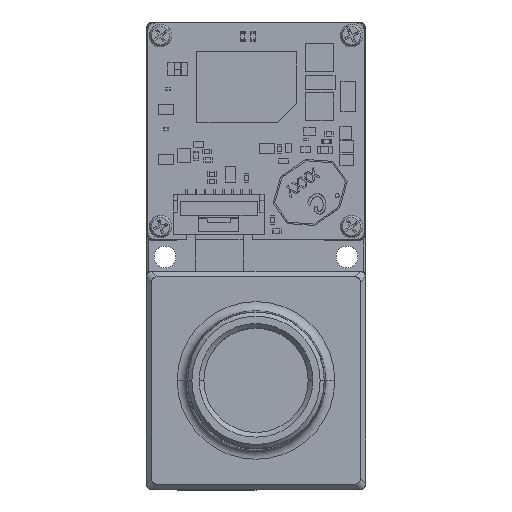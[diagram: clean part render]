
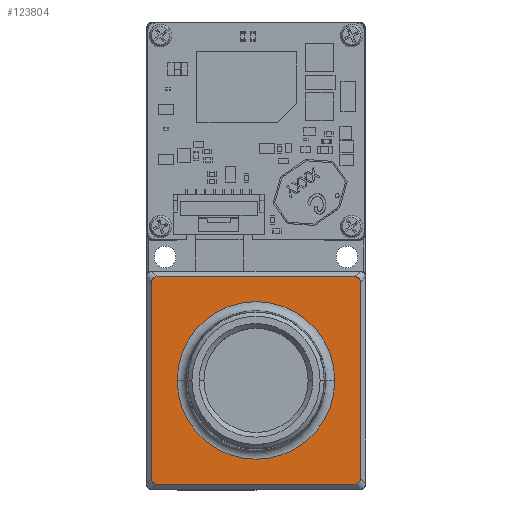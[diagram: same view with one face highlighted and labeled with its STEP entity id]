
A CAD part, top view. The second image highlights one B-rep face of the part: STEP entity #123804.
In plain terms, the highlighted planar face has unit normal (0, 0, 1).
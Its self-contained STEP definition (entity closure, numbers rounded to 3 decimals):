
#236 = CARTESIAN_POINT ( 'NONE',  ( -10.874, 11.4, 8. ) ) ;
#1142 = VERTEX_POINT ( 'NONE', #147869 ) ;
#1394 = CARTESIAN_POINT ( 'NONE',  ( 10.874, -11.4, 8. ) ) ;
#8650 = AXIS2_PLACEMENT_3D ( 'NONE', #35487, #95917, #83333 ) ;
#9811 = EDGE_CURVE ( 'NONE', #67257, #20929, #61658, .T. ) ;
#11931 = VERTEX_POINT ( 'NONE', #131696 ) ;
#13210 = CARTESIAN_POINT ( 'NONE',  ( 11.475, -11.178, 8. ) ) ;
#15712 =( BOUNDED_CURVE ( )  B_SPLINE_CURVE ( 3, ( #89204, #147423, #80323, #56041 ),
 .UNSPECIFIED., .F., .F. ) 
 B_SPLINE_CURVE_WITH_KNOTS ( ( 4, 4 ),
 ( 2.623, 3.675 ),
 .UNSPECIFIED. ) 
 CURVE ( )  GEOMETRIC_REPRESENTATION_ITEM ( )  RATIONAL_B_SPLINE_CURVE ( ( 1., 0.91, 0.91, 1. ) ) 
 REPRESENTATION_ITEM ( '' )  );
#16257 = CARTESIAN_POINT ( 'NONE',  ( 11.475, 10.794, 8. ) ) ;
#18449 = CARTESIAN_POINT ( 'NONE',  ( -11.475, -11.178, 8. ) ) ;
#19149 = DIRECTION ( 'NONE',  ( 0., 1., 0. ) ) ;
#20929 = VERTEX_POINT ( 'NONE', #69067 ) ;
#24364 = CIRCLE ( 'NONE', #117205, 8.666 ) ;
#29000 = ORIENTED_EDGE ( 'NONE', *, *, #79288, .T. ) ;
#30996 = CARTESIAN_POINT ( 'NONE',  ( -10.874, -11.4, 8. ) ) ;
#32399 = EDGE_CURVE ( 'NONE', #11931, #99386, #24364, .T. ) ;
#35487 = CARTESIAN_POINT ( 'NONE',  ( 0., 0., 8. ) ) ;
#38327 = ORIENTED_EDGE ( 'NONE', *, *, #9811, .T. ) ;
#39099 = CARTESIAN_POINT ( 'NONE',  ( 11.475, -10.794, 8. ) ) ;
#40115 = CARTESIAN_POINT ( 'NONE',  ( 0., 0., 8. ) ) ;
#42953 = ORIENTED_EDGE ( 'NONE', *, *, #74136, .T. ) ;
#45287 = EDGE_CURVE ( 'NONE', #89670, #93672, #70658, .T. ) ;
#49892 = CARTESIAN_POINT ( 'NONE',  ( 0., -11.4, 8. ) ) ;
#56041 = CARTESIAN_POINT ( 'NONE',  ( -11.475, 10.794, 8. ) ) ;
#56767 = DIRECTION ( 'NONE',  ( 0., -1., 0. ) ) ;
#57101 = AXIS2_PLACEMENT_3D ( 'NONE', #120223, #59741, #96632 ) ;
#57505 = CARTESIAN_POINT ( 'NONE',  ( 8.666, 0., 8. ) ) ;
#57536 = LINE ( 'NONE', #67775, #132528 ) ;
#58963 = CARTESIAN_POINT ( 'NONE',  ( 10.874, 11.4, 8. ) ) ;
#59741 = DIRECTION ( 'NONE',  ( 0., 0., -1. ) ) ;
#61658 = LINE ( 'NONE', #49892, #94899 ) ;
#62422 = ORIENTED_EDGE ( 'NONE', *, *, #32399, .T. ) ;
#64306 =( BOUNDED_CURVE ( )  B_SPLINE_CURVE ( 3, ( #130446, #108449, #83275, #58963 ),
 .UNSPECIFIED., .F., .T. ) 
 B_SPLINE_CURVE_WITH_KNOTS ( ( 4, 4 ),
 ( 5.749, 6.802 ),
 .UNSPECIFIED. ) 
 CURVE ( )  GEOMETRIC_REPRESENTATION_ITEM ( )  RATIONAL_B_SPLINE_CURVE ( ( 1., 0.91, 0.91, 1. ) ) 
 REPRESENTATION_ITEM ( '' )  );
#67257 = VERTEX_POINT ( 'NONE', #147863 ) ;
#67775 = CARTESIAN_POINT ( 'NONE',  ( -11.475, 0., 8. ) ) ;
#69067 = CARTESIAN_POINT ( 'NONE',  ( 10.874, -11.4, 8. ) ) ;
#70658 = LINE ( 'NONE', #143718, #80903 ) ;
#71939 = EDGE_CURVE ( 'NONE', #119998, #89670, #64306, .T. ) ;
#72987 = DIRECTION ( 'NONE',  ( -1., 0., 0. ) ) ;
#74136 = EDGE_CURVE ( 'NONE', #1142, #67257, #144625, .T. ) ;
#74645 = ORIENTED_EDGE ( 'NONE', *, *, #118561, .T. ) ;
#75168 = ORIENTED_EDGE ( 'NONE', *, *, #71939, .T. ) ;
#77273 = EDGE_CURVE ( 'NONE', #79323, #119998, #125950, .T. ) ;
#79288 = EDGE_CURVE ( 'NONE', #20929, #79323, #79418, .T. ) ;
#79323 = VERTEX_POINT ( 'NONE', #39099 ) ;
#79418 =( BOUNDED_CURVE ( )  B_SPLINE_CURVE ( 3, ( #1394, #147499, #13210, #135668 ),
 .UNSPECIFIED., .F., .F. ) 
 B_SPLINE_CURVE_WITH_KNOTS ( ( 4, 4 ),
 ( 5.765, 6.817 ),
 .UNSPECIFIED. ) 
 CURVE ( )  GEOMETRIC_REPRESENTATION_ITEM ( )  RATIONAL_B_SPLINE_CURVE ( ( 1., 0.91, 0.91, 1. ) ) 
 REPRESENTATION_ITEM ( '' )  );
#80323 = CARTESIAN_POINT ( 'NONE',  ( -11.475, 11.178, 8. ) ) ;
#80903 = VECTOR ( 'NONE', #72987, 1000. ) ;
#83275 = CARTESIAN_POINT ( 'NONE',  ( 11.255, 11.4, 8. ) ) ;
#83333 = DIRECTION ( 'NONE',  ( -1., 0., 0. ) ) ;
#86776 = EDGE_CURVE ( 'NONE', #153963, #1142, #57536, .T. ) ;
#89204 = CARTESIAN_POINT ( 'NONE',  ( -10.874, 11.4, 8. ) ) ;
#89670 = VERTEX_POINT ( 'NONE', #95936 ) ;
#92160 = CARTESIAN_POINT ( 'NONE',  ( -11.255, -11.4, 8. ) ) ;
#92589 = EDGE_LOOP ( 'NONE', ( #38327, #29000, #118633, #75168, #147084, #116358, #132265, #42953 ) ) ;
#93672 = VERTEX_POINT ( 'NONE', #236 ) ;
#94342 = FACE_BOUND ( 'NONE', #101536, .T. ) ;
#94899 = VECTOR ( 'NONE', #97765, 1000. ) ;
#95917 = DIRECTION ( 'NONE',  ( 0., 0., -1. ) ) ;
#95936 = CARTESIAN_POINT ( 'NONE',  ( 10.874, 11.4, 8. ) ) ;
#96632 = DIRECTION ( 'NONE',  ( -1., 0., 0. ) ) ;
#97765 = DIRECTION ( 'NONE',  ( 1., 0., 0. ) ) ;
#98976 = CARTESIAN_POINT ( 'NONE',  ( -11.475, 10.794, 8. ) ) ;
#99386 = VERTEX_POINT ( 'NONE', #57505 ) ;
#99765 = DIRECTION ( 'NONE',  ( 0., 0., -1. ) ) ;
#101536 = EDGE_LOOP ( 'NONE', ( #62422, #74645 ) ) ;
#105469 = CARTESIAN_POINT ( 'NONE',  ( 11.475, 0., 8. ) ) ;
#106923 = FACE_OUTER_BOUND ( 'NONE', #92589, .T. ) ;
#108449 = CARTESIAN_POINT ( 'NONE',  ( 11.475, 11.178, 8. ) ) ;
#116358 = ORIENTED_EDGE ( 'NONE', *, *, #127868, .T. ) ;
#117205 = AXIS2_PLACEMENT_3D ( 'NONE', #40115, #99765, #122568 ) ;
#118561 = EDGE_CURVE ( 'NONE', #99386, #11931, #154884, .T. ) ;
#118633 = ORIENTED_EDGE ( 'NONE', *, *, #77273, .T. ) ;
#119998 = VERTEX_POINT ( 'NONE', #16257 ) ;
#120223 = CARTESIAN_POINT ( 'NONE',  ( 0., 0., 8. ) ) ;
#122568 = DIRECTION ( 'NONE',  ( -1., 0., 0. ) ) ;
#123804 = ADVANCED_FACE ( 'NONE', ( #94342, #106923 ), #143084, .F. ) ;
#125950 = LINE ( 'NONE', #105469, #141195 ) ;
#127868 = EDGE_CURVE ( 'NONE', #93672, #153963, #15712, .T. ) ;
#130446 = CARTESIAN_POINT ( 'NONE',  ( 11.475, 10.794, 8. ) ) ;
#131696 = CARTESIAN_POINT ( 'NONE',  ( -8.666, 0., 8. ) ) ;
#132265 = ORIENTED_EDGE ( 'NONE', *, *, #86776, .T. ) ;
#132528 = VECTOR ( 'NONE', #56767, 1000. ) ;
#135668 = CARTESIAN_POINT ( 'NONE',  ( 11.475, -10.794, 8. ) ) ;
#141195 = VECTOR ( 'NONE', #19149, 1000. ) ;
#143084 = PLANE ( 'NONE',  #8650 ) ;
#143718 = CARTESIAN_POINT ( 'NONE',  ( 0., 11.4, 8. ) ) ;
#144625 =( BOUNDED_CURVE ( )  B_SPLINE_CURVE ( 3, ( #151204, #18449, #92160, #30996 ),
 .UNSPECIFIED., .F., .F. ) 
 B_SPLINE_CURVE_WITH_KNOTS ( ( 4, 4 ),
 ( 2.608, 3.66 ),
 .UNSPECIFIED. ) 
 CURVE ( )  GEOMETRIC_REPRESENTATION_ITEM ( )  RATIONAL_B_SPLINE_CURVE ( ( 1., 0.91, 0.91, 1. ) ) 
 REPRESENTATION_ITEM ( '' )  );
#147084 = ORIENTED_EDGE ( 'NONE', *, *, #45287, .T. ) ;
#147423 = CARTESIAN_POINT ( 'NONE',  ( -11.255, 11.4, 8. ) ) ;
#147499 = CARTESIAN_POINT ( 'NONE',  ( 11.255, -11.4, 8. ) ) ;
#147863 = CARTESIAN_POINT ( 'NONE',  ( -10.874, -11.4, 8. ) ) ;
#147869 = CARTESIAN_POINT ( 'NONE',  ( -11.475, -10.794, 8. ) ) ;
#151204 = CARTESIAN_POINT ( 'NONE',  ( -11.475, -10.794, 8. ) ) ;
#153963 = VERTEX_POINT ( 'NONE', #98976 ) ;
#154884 = CIRCLE ( 'NONE', #57101, 8.666 ) ;
